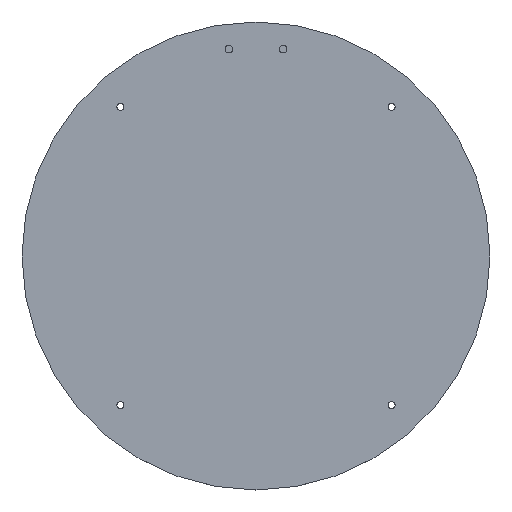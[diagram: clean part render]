
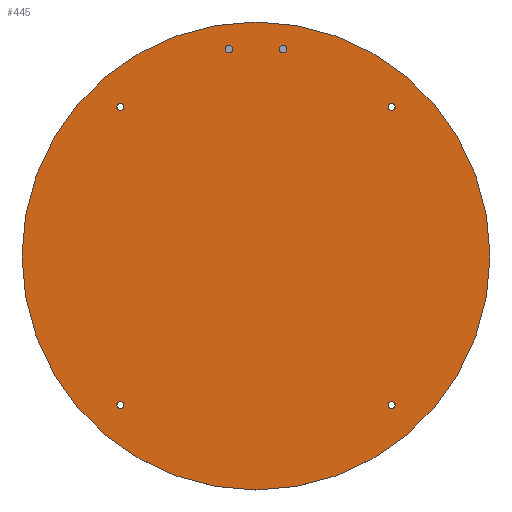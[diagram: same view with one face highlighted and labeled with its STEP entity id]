
A CAD part, top view. The second image highlights one B-rep face of the part: STEP entity #445.
In plain terms, the highlighted planar face has unit normal (0, 0, 1).
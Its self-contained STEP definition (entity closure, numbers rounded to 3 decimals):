
#21 = EDGE_CURVE('',#22,#22,#24,.T.);
#22 = VERTEX_POINT('',#23);
#23 = CARTESIAN_POINT('',(138.,0.,275.8));
#24 = CIRCLE('',#25,138.);
#25 = AXIS2_PLACEMENT_3D('',#26,#27,#28);
#26 = CARTESIAN_POINT('',(0.,0.,275.8));
#27 = DIRECTION('',(0.,0.,1.));
#28 = DIRECTION('',(1.,0.,-0.));
#212 = EDGE_CURVE('',#213,#213,#215,.T.);
#213 = VERTEX_POINT('',#214);
#214 = CARTESIAN_POINT('',(-77.9,-88.,275.8));
#215 = CIRCLE('',#216,2.1);
#216 = AXIS2_PLACEMENT_3D('',#217,#218,#219);
#217 = CARTESIAN_POINT('',(-80.,-88.,275.8));
#218 = DIRECTION('',(0.,0.,1.));
#219 = DIRECTION('',(1.,0.,-0.));
#324 = EDGE_CURVE('',#325,#325,#327,.T.);
#325 = VERTEX_POINT('',#326);
#326 = CARTESIAN_POINT('',(82.1,-88.,275.8));
#327 = CIRCLE('',#328,2.1);
#328 = AXIS2_PLACEMENT_3D('',#329,#330,#331);
#329 = CARTESIAN_POINT('',(80.,-88.,275.8));
#330 = DIRECTION('',(0.,0.,1.));
#331 = DIRECTION('',(1.,0.,-0.));
#349 = EDGE_CURVE('',#350,#350,#352,.T.);
#350 = VERTEX_POINT('',#351);
#351 = CARTESIAN_POINT('',(-77.9,88.,275.8));
#352 = CIRCLE('',#353,2.1);
#353 = AXIS2_PLACEMENT_3D('',#354,#355,#356);
#354 = CARTESIAN_POINT('',(-80.,88.,275.8));
#355 = DIRECTION('',(0.,0.,1.));
#356 = DIRECTION('',(1.,0.,-0.));
#374 = EDGE_CURVE('',#375,#375,#377,.T.);
#375 = VERTEX_POINT('',#376);
#376 = CARTESIAN_POINT('',(82.1,88.,275.8));
#377 = CIRCLE('',#378,2.1);
#378 = AXIS2_PLACEMENT_3D('',#379,#380,#381);
#379 = CARTESIAN_POINT('',(80.,88.,275.8));
#380 = DIRECTION('',(0.,0.,1.));
#381 = DIRECTION('',(1.,0.,-0.));
#445 = ADVANCED_FACE('',(#446,#449,#460,#471,#474,#477,#480),#483,.T.);
#446 = FACE_BOUND('',#447,.T.);
#447 = EDGE_LOOP('',(#448));
#448 = ORIENTED_EDGE('',*,*,#21,.T.);
#449 = FACE_BOUND('',#450,.T.);
#450 = EDGE_LOOP('',(#451));
#451 = ORIENTED_EDGE('',*,*,#452,.F.);
#452 = EDGE_CURVE('',#453,#453,#455,.T.);
#453 = VERTEX_POINT('',#454);
#454 = CARTESIAN_POINT('',(-13.75,122.,275.8));
#455 = CIRCLE('',#456,2.25);
#456 = AXIS2_PLACEMENT_3D('',#457,#458,#459);
#457 = CARTESIAN_POINT('',(-16.,122.,275.8));
#458 = DIRECTION('',(0.,0.,1.));
#459 = DIRECTION('',(1.,0.,-0.));
#460 = FACE_BOUND('',#461,.T.);
#461 = EDGE_LOOP('',(#462));
#462 = ORIENTED_EDGE('',*,*,#463,.F.);
#463 = EDGE_CURVE('',#464,#464,#466,.T.);
#464 = VERTEX_POINT('',#465);
#465 = CARTESIAN_POINT('',(18.25,122.,275.8));
#466 = CIRCLE('',#467,2.25);
#467 = AXIS2_PLACEMENT_3D('',#468,#469,#470);
#468 = CARTESIAN_POINT('',(16.,122.,275.8));
#469 = DIRECTION('',(0.,0.,1.));
#470 = DIRECTION('',(1.,0.,-0.));
#471 = FACE_BOUND('',#472,.T.);
#472 = EDGE_LOOP('',(#473));
#473 = ORIENTED_EDGE('',*,*,#212,.F.);
#474 = FACE_BOUND('',#475,.T.);
#475 = EDGE_LOOP('',(#476));
#476 = ORIENTED_EDGE('',*,*,#324,.F.);
#477 = FACE_BOUND('',#478,.T.);
#478 = EDGE_LOOP('',(#479));
#479 = ORIENTED_EDGE('',*,*,#349,.F.);
#480 = FACE_BOUND('',#481,.T.);
#481 = EDGE_LOOP('',(#482));
#482 = ORIENTED_EDGE('',*,*,#374,.F.);
#483 = PLANE('',#484);
#484 = AXIS2_PLACEMENT_3D('',#485,#486,#487);
#485 = CARTESIAN_POINT('',(0.,0.,275.8));
#486 = DIRECTION('',(0.,0.,1.));
#487 = DIRECTION('',(1.,0.,-0.));
